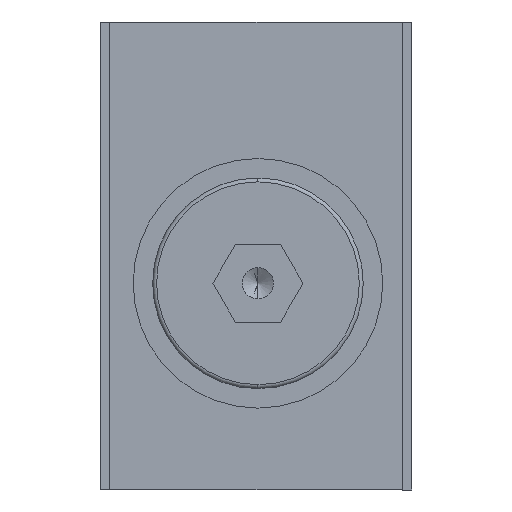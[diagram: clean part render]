
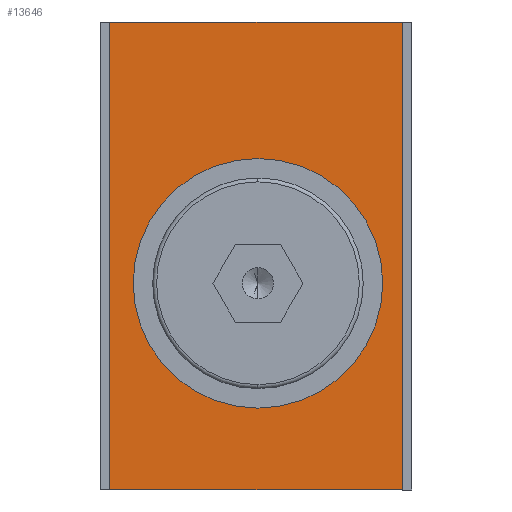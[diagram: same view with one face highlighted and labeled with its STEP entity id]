
A CAD part, left-side view. The second image highlights one B-rep face of the part: STEP entity #13646.
In plain terms, the highlighted planar face has unit normal (-1, 0, 0).
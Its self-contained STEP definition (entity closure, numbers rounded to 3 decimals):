
#471 = CARTESIAN_POINT ( 'NONE',  ( 0., -0.25, -19.5 ) ) ;
#816 = PLANE ( 'NONE',  #8325 ) ;
#824 = CARTESIAN_POINT ( 'NONE',  ( 0., -18.75, -30. ) ) ;
#1862 = CARTESIAN_POINT ( 'NONE',  ( 0., -0.25, 12.5 ) ) ;
#3331 = DIRECTION ( 'NONE',  ( 0., 0., 1. ) ) ;
#4015 = DIRECTION ( 'NONE',  ( -1., 0., 0. ) ) ;
#4283 = CARTESIAN_POINT ( 'NONE',  ( 0., 18.75, -30.707 ) ) ;
#4738 = LINE ( 'NONE', #4283, #10016 ) ;
#5162 = CARTESIAN_POINT ( 'NONE',  ( 0., -0.25, -3.5 ) ) ;
#5814 = CARTESIAN_POINT ( 'NONE',  ( 0., -19.457, 30. ) ) ;
#7365 = VERTEX_POINT ( 'NONE', #24342 ) ;
#7399 = DIRECTION ( 'NONE',  ( 0., 0., -1. ) ) ;
#7808 = VECTOR ( 'NONE', #3331, 1000. ) ;
#8079 = DIRECTION ( 'NONE',  ( 0., 1., 0. ) ) ;
#8325 = AXIS2_PLACEMENT_3D ( 'NONE', #23678, #9969, #25996 ) ;
#8938 = VERTEX_POINT ( 'NONE', #1862 ) ;
#9185 = EDGE_CURVE ( 'NONE', #12014, #7365, #19976, .T. ) ;
#9353 = ORIENTED_EDGE ( 'NONE', *, *, #9185, .T. ) ;
#9678 = EDGE_CURVE ( 'NONE', #8938, #15960, #24575, .T. ) ;
#9969 = DIRECTION ( 'NONE',  ( 1., 0., 0. ) ) ;
#9974 = EDGE_CURVE ( 'NONE', #15960, #8938, #25610, .T. ) ;
#10016 = VECTOR ( 'NONE', #22490, 1000. ) ;
#10640 = ORIENTED_EDGE ( 'NONE', *, *, #28414, .T. ) ;
#11470 = ORIENTED_EDGE ( 'NONE', *, *, #9974, .F. ) ;
#12014 = VERTEX_POINT ( 'NONE', #824 ) ;
#12372 = CARTESIAN_POINT ( 'NONE',  ( 0., 18.75, -30. ) ) ;
#13274 = ORIENTED_EDGE ( 'NONE', *, *, #9678, .F. ) ;
#13383 = EDGE_CURVE ( 'NONE', #14208, #25637, #4738, .T. ) ;
#13646 = ADVANCED_FACE ( 'NONE', ( #26114, #13953 ), #816, .F. ) ;
#13850 = EDGE_LOOP ( 'NONE', ( #11470, #13274 ) ) ;
#13953 = FACE_BOUND ( 'NONE', #13850, .T. ) ;
#14208 = VERTEX_POINT ( 'NONE', #12372 ) ;
#15570 = VECTOR ( 'NONE', #17589, 1000. ) ;
#15960 = VERTEX_POINT ( 'NONE', #471 ) ;
#16289 = LINE ( 'NONE', #19870, #15570 ) ;
#17589 = DIRECTION ( 'NONE',  ( 0., 1., 0. ) ) ;
#17617 = CARTESIAN_POINT ( 'NONE',  ( 0., -0.25, -3.5 ) ) ;
#17654 = CARTESIAN_POINT ( 'NONE',  ( 0., 18.75, 30. ) ) ;
#18523 = AXIS2_PLACEMENT_3D ( 'NONE', #17617, #4015, #19906 ) ;
#18906 = AXIS2_PLACEMENT_3D ( 'NONE', #5162, #21093, #7399 ) ;
#19206 = CARTESIAN_POINT ( 'NONE',  ( 0., -18.75, -30.707 ) ) ;
#19870 = CARTESIAN_POINT ( 'NONE',  ( 0., -19.457, -30. ) ) ;
#19906 = DIRECTION ( 'NONE',  ( 0., 0., -1. ) ) ;
#19976 = LINE ( 'NONE', #19206, #7808 ) ;
#21093 = DIRECTION ( 'NONE',  ( -1., 0., 0. ) ) ;
#21464 = EDGE_CURVE ( 'NONE', #12014, #14208, #16289, .T. ) ;
#22490 = DIRECTION ( 'NONE',  ( 0., 0., 1. ) ) ;
#23678 = CARTESIAN_POINT ( 'NONE',  ( 0., -18.75, -30. ) ) ;
#24342 = CARTESIAN_POINT ( 'NONE',  ( 0., -18.75, 30. ) ) ;
#24575 = CIRCLE ( 'NONE', #18523, 16. ) ;
#25098 = VECTOR ( 'NONE', #8079, 1000. ) ;
#25610 = CIRCLE ( 'NONE', #18906, 16. ) ;
#25637 = VERTEX_POINT ( 'NONE', #17654 ) ;
#25836 = LINE ( 'NONE', #5814, #25098 ) ;
#25996 = DIRECTION ( 'NONE',  ( 0., 0., 1. ) ) ;
#26114 = FACE_OUTER_BOUND ( 'NONE', #29345, .T. ) ;
#27363 = ORIENTED_EDGE ( 'NONE', *, *, #13383, .F. ) ;
#27995 = ORIENTED_EDGE ( 'NONE', *, *, #21464, .F. ) ;
#28414 = EDGE_CURVE ( 'NONE', #7365, #25637, #25836, .T. ) ;
#29345 = EDGE_LOOP ( 'NONE', ( #27363, #27995, #9353, #10640 ) ) ;
